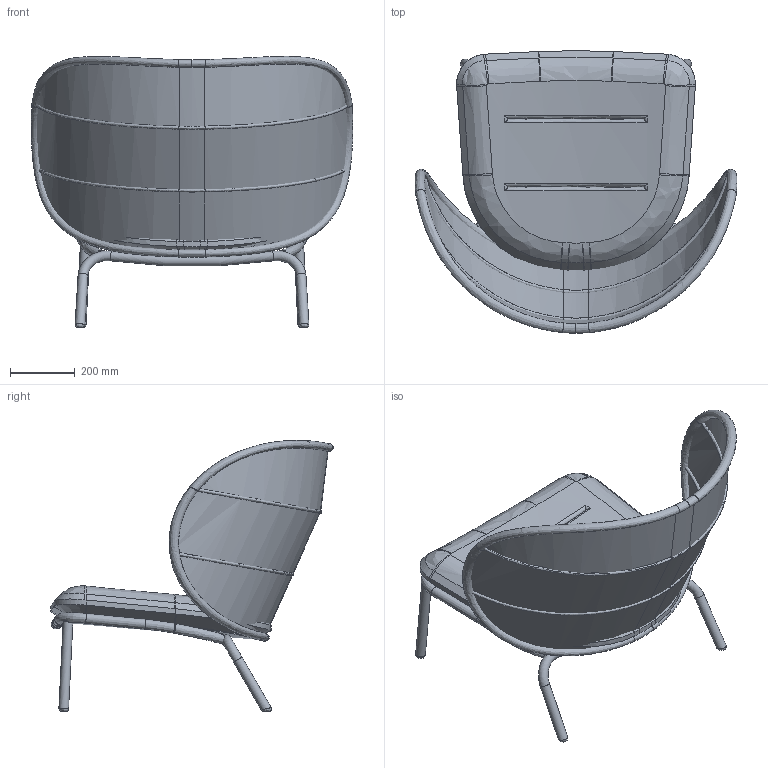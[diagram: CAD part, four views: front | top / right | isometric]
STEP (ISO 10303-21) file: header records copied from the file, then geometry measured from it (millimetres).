
FILE_DESCRIPTION(/* description */ (''),/* implementation_level */ '2;1');
FILE_NAME(/* name */ 'U:/01 COLLECTIE/02 OUTDOOR/01 Producten/Kodo collection/Cocoon/3D/VincentSheppard_Kodo_Lounge.step',/* time_stamp */ '2019-09-24T08:24:55+02:00',/* author */ (''),/* organization */ (''),/* preprocessor_version */ 'ST-DEVELOPER v18',/* originating_system */ 'Autodesk Translation Framework v8.6.0.1094',/* authorisation */ '');
FILE_SCHEMA (('AUTOMOTIVE_DESIGN { 1 0 10303 214 3 1 1 }'));
Length unit declared in the file: millimetre
Products named in the file (1): VincentSheppard_Kodo_Lounge
Bounding box: 992.97 x 873.08 x 837.34 mm (x, y, z)
Volume: 42195553.5 mm3; surface area: 3342923.7 mm2
Topology: 9 solids, 10 shells, 198 faces, 469 edges, 288 vertices
Faces by surface type: bspline 155, plane 24, cylinder 16, torus 3
Full cylindrical faces by diameter (mm): 27 x2, 30 x4
Entity records: 18538 total; most frequent: CARTESIAN_POINT 14568, ORIENTED_EDGE 930, DIRECTION 592, EDGE_CURVE 469, VERTEX_POINT 288, AXIS2_PLACEMENT_3D 239, EDGE_LOOP 200, FACE_OUTER_BOUND 198
